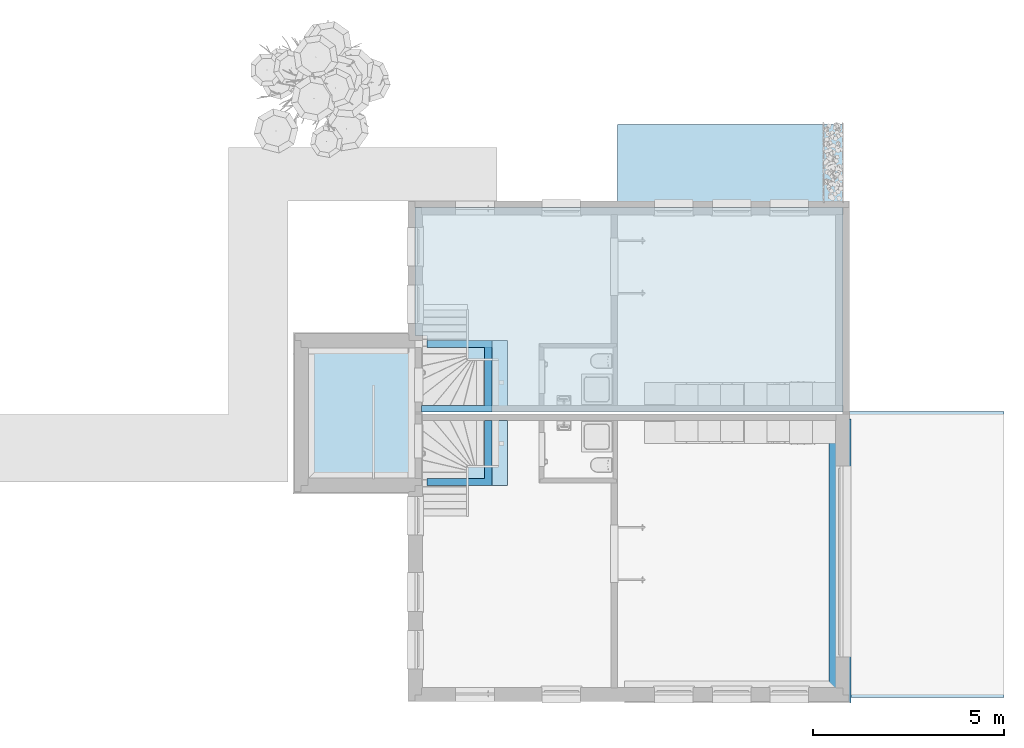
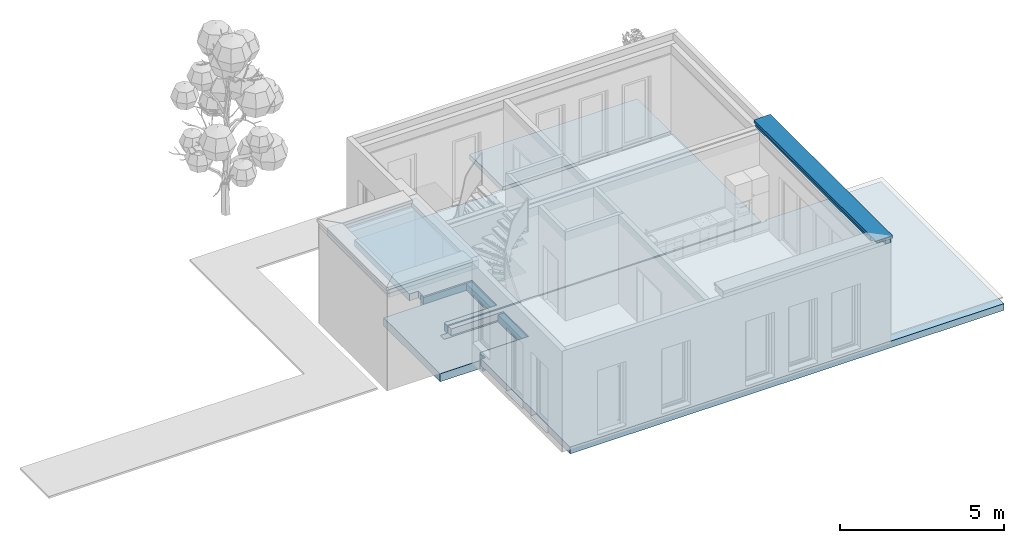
# One storey, part 5 of 28: 7 slabs, 1 beam.
"""IFC4 building model written with IfcOpenShell, lengths in metres."""

from ifc_helpers import new_model, entity, si_unit, converted_unit, derived_unit, direction, frame, origin_with_axes, place, context, subcontext, project, spatial, triangles, material, constituent, constituent_set, type_object, element, save


model = new_model("IFC4")

# Units and contexts
model_context = context("Model", 3, precision=1e-05, world=origin_with_axes(), true_north=direction((-0.526213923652, 0.850352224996)))
body_context = subcontext(model_context, "Body", "Model", "MODEL_VIEW")
ifc_project = project(units=[si_unit("LENGTHUNIT", "METRE"), si_unit("AREAUNIT", "SQUARE_METRE"), si_unit("VOLUMEUNIT", "CUBIC_METRE"), converted_unit("PLANEANGLEUNIT", "DEGREE", entity("IfcPlaneAngleMeasure", 0.0174532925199), si_unit("PLANEANGLEUNIT", "RADIAN"), dimensions=[0, 0, 0, 0, 0, 0, 0]), si_unit("SOLIDANGLEUNIT", "STERADIAN"), converted_unit("TIMEUNIT", "Year", entity("IfcTimeMeasure", 31556926.0), si_unit("TIMEUNIT", "SECOND"), dimensions=[0, 0, 1, 0, 0, 0, 0]), si_unit("MASSUNIT", "GRAM", prefix="KILO"), si_unit("THERMODYNAMICTEMPERATUREUNIT", "DEGREE_CELSIUS"), si_unit("LUMINOUSINTENSITYUNIT", "LUMEN"), si_unit("ENERGYUNIT", "JOULE", prefix="MEGA"), derived_unit("THERMALCONDUCTANCEUNIT", [(si_unit("POWERUNIT", "WATT"), 1), (si_unit("LENGTHUNIT", "METRE"), -1), (si_unit("THERMODYNAMICTEMPERATUREUNIT", "KELVIN"), -1)]), derived_unit("SPECIFICHEATCAPACITYUNIT", [(si_unit("ENERGYUNIT", "JOULE"), 1), (si_unit("MASSUNIT", "GRAM", prefix="KILO"), -1), (si_unit("THERMODYNAMICTEMPERATUREUNIT", "KELVIN"), -1)]), derived_unit("MASSDENSITYUNIT", [(si_unit("MASSUNIT", "GRAM", prefix="KILO"), 1), (si_unit("VOLUMEUNIT", "CUBIC_METRE"), -1)])], contexts=[model_context])

# Site, building, storey, space
site_placement = place(None, origin_with_axes())
site = spatial("IfcSite", under=ifc_project, at=site_placement, Name="Gelände", CompositionType="ELEMENT")
building_placement = place(site_placement, origin_with_axes())
building = spatial("IfcBuilding", under=site, at=building_placement, Name="Haus vom Nikolaus", CompositionType="ELEMENT")
storey_placement = place(building_placement, origin_with_axes())
storey = spatial("IfcBuildingStorey", under=building, at=storey_placement, Name="EG", CompositionType="ELEMENT", Elevation=0.0)
space_1_placement = place(storey_placement, frame((11.4399976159, -0.000167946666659, 0.0), z_axis=(0.0, 0.0, 1.0), x_axis=(1.0, 0.0, 0.0)))
space_1 = spatial("IfcSpace", under=storey, at=space_1_placement, Name="R-024", CompositionType="ELEMENT")

# Beam
ifc_material_1 = material(Name="Verputz, Kalkzement")
ifc_constituent_1 = constituent(ifc_material_1, Name="Component 1")
ifc_material_2 = material(Name="Holz, Bauholz")
ifc_constituent_2 = constituent(ifc_material_2, Name="Component 2")
ifc_material_3 = material(Name="Dämmung, hart XPS")
ifc_constituent_3 = constituent(ifc_material_3, Name="Component 3")
ifc_material_4 = material(Name="Holz, Brettschichtholz")
ifc_constituent_4 = constituent(ifc_material_4, Name="Component 4")
ifc_material_5 = material(Name="MW Kalksandstein")
ifc_constituent_5 = constituent(ifc_material_5, Name="Component 5")
ifc_constituent_6 = constituent(ifc_material_2, Name="Component 6")
ifc_constituent_7 = constituent(ifc_material_3, Name="Component 7")
ifc_material_6 = material(Name="Holz, Spanplatte")
ifc_constituent_8 = constituent(ifc_material_6, Name="Component 8")
ifc_material_7 = material(Name="Metall, Stahl verzinkt")
ifc_constituent_9 = constituent(ifc_material_7, Name="Component 9")
ifc_constituent_set = constituent_set(constituents=[ifc_constituent_1, ifc_constituent_2, ifc_constituent_3, ifc_constituent_4, ifc_constituent_5, ifc_constituent_6, ifc_constituent_7, ifc_constituent_8, ifc_constituent_9], Name="Bauteil - Attika Mauerwerk")
beam_type = type_object("IfcBeamType", Name="Bauteil - Attika Mauerwerk 574 x 270", PredefinedType="NOTDEFINED")
beam_placement = place(space_1_placement, frame((-0.179999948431, 7.28500003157, 3.67), z_axis=(0.0, 0.0, 1.0), x_axis=(0.0, -1.0, 0.0)))
element("IfcBeam", 1, at=beam_placement, inside=space_1, type_object=beam_type, material=ifc_constituent_set, Name="Attika-Wand-005", ObjectType="Bauteil - Attika Mauerwerk 574 x 270", context=body_context, shape_type="Tessellation", body=[
    triangles([(0.0, 0.180000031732, 0.300000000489), (7.40000000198, 0.160124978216, 0.300000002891), (7.40000000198, 0.180000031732, 0.300000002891), (0.0, 0.160124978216, 0.300000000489), (7.39999999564, 0.180000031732, 0.259126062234), (7.39999999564, 0.160039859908, 0.259126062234), (7.3999999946, 0.180000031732, 0.251263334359), (7.39999999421, 0.180000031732, 0.24895224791), (0.0, 0.180000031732, 0.08), (7.40000000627, 0.180000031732, 0.0799999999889), (0.0, 0.160000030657, 0.239999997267), (0.0, 0.160000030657, 0.08), (7.3999999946, 0.160023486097, 0.251263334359), (7.39999999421, 0.160018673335, 0.24895224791), (7.40000000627, 0.160000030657, 0.239999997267), (7.40000000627, 0.160000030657, 0.0799999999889)], [[1, 2, 3], [1, 4, 2], [2, 5, 3], [2, 6, 5], [7, 1, 5], [1, 8, 9], [8, 1, 7], [9, 8, 10], [5, 1, 3], [1, 11, 4], [11, 1, 9], [11, 9, 12], [11, 6, 4], [4, 6, 2], [13, 11, 14], [15, 14, 11], [11, 13, 6], [7, 6, 13], [6, 7, 5], [8, 13, 14], [13, 8, 7], [10, 15, 16], [15, 8, 14], [15, 10, 8], [16, 9, 10], [16, 12, 9], [15, 12, 16], [15, 11, 12]], closed=True),
    triangles([(0.0, 0.109995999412, 0.324039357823), (7.3299959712, 0.109995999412, 0.324039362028), (0.0, 0.110124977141, 0.300000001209), (7.33000718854, 0.110007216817, 0.321948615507), (7.33012494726, 0.110124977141, 0.300000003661), (7.33008283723, 0.110082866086, 0.30784881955), (7.33003921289, 0.110039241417, 0.315979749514), (7.33000718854, 0.0501249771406, 0.321948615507), (7.33003921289, 0.0501249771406, 0.315979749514), (7.33008283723, 0.0501249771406, 0.30784881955), (7.33012494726, 0.0501249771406, 0.300000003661), (0.0, 0.0501249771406, 0.300000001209), (0.0, 0.0501249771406, 0.321948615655)], [[1, 2, 3], [3, 2, 4], [5, 3, 6], [6, 3, 7], [7, 3, 4], [2, 8, 4], [9, 4, 8], [9, 7, 4], [10, 7, 9], [10, 6, 7], [11, 6, 10], [11, 5, 6], [12, 5, 11], [12, 3, 5], [3, 13, 1], [3, 12, 13], [13, 2, 1], [2, 13, 8], [8, 12, 9], [12, 8, 13], [10, 9, 12], [10, 12, 11]], closed=True),
    triangles([(0.0, 0.16, 0.24), (7.37999999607, 0.0, 0.24000000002), (7.37999999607, 0.16, 0.24000000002), (0.0, 0.0, 0.24), (7.37999999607, 0.16, 0.238724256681), (7.37999999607, 0.0, 0.238724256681), (7.37999999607, 0.16, 0.228597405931), (7.37999999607, 0.16, 0.23090849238), (0.0, 0.16, 0.0800000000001), (7.37999999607, 0.16, 0.08), (0.0, 0.0, 0.0799999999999), (7.37999999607, 0.0, 0.228597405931), (7.37999999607, 0.0, 0.23090849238), (7.37999999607, 0.0, 0.08)], [[1, 2, 3], [1, 4, 2], [2, 5, 3], [2, 6, 5], [7, 1, 8], [8, 1, 5], [1, 7, 9], [9, 7, 10], [5, 1, 3], [4, 9, 11], [4, 1, 9], [12, 4, 11], [4, 6, 2], [13, 6, 4], [12, 11, 14], [13, 4, 12], [13, 5, 6], [13, 8, 5], [12, 8, 13], [12, 7, 8], [10, 12, 14], [12, 10, 7], [11, 10, 14], [11, 9, 10]], closed=True),
    triangles([(0.0, 0.160124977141, 0.300000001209), (7.38012494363, 0.110124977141, 0.300000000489), (7.38012494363, 0.160124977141, 0.300000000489), (0.0, 0.110124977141, 0.300000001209), (7.38012494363, 0.0501249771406, 0.300000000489), (7.38003982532, 0.160039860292, 0.259126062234), (7.38003982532, -0.2, 0.259126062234), (7.38012494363, -0.12, 0.300000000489), (7.38012494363, -0.18, 0.300000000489), (7.38012494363, -0.2, 0.300000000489), (0.0, 0.160000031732, 0.24), (7.38002345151, 0.160023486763, 0.251263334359), (7.38001863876, 0.160018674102, 0.24895224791), (7.37999999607, 0.160000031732, 0.239999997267), (0.0, -0.2, 0.24), (0.0, 0.0501249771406, 0.300000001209), (0.0, -0.12, 0.300000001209), (0.0, -0.18, 0.300000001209), (0.0, -0.2, 0.300000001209), (7.38002345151, -0.2, 0.251263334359), (7.38001863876, -0.2, 0.24895224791), (7.37999999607, -0.2, 0.239999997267)], [[1, 2, 3], [1, 4, 2], [5, 6, 2], [2, 6, 3], [7, 5, 8], [7, 8, 9], [7, 9, 10], [5, 7, 6], [11, 6, 12], [1, 6, 11], [11, 12, 13], [11, 13, 14], [6, 1, 3], [11, 15, 16], [11, 4, 1], [11, 16, 4], [17, 16, 15], [18, 15, 19], [17, 15, 18], [4, 5, 2], [4, 16, 5], [16, 8, 5], [16, 17, 8], [17, 9, 8], [17, 18, 9], [18, 10, 9], [18, 19, 10], [15, 7, 19], [19, 7, 10], [20, 7, 15], [21, 15, 22], [20, 15, 21], [12, 7, 20], [7, 12, 6], [13, 20, 21], [20, 13, 12], [14, 21, 22], [21, 14, 13], [15, 14, 22], [15, 11, 14]], closed=True),
    triangles([(0.0, 0.0, 0.24), (7.21999996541, -0.2, 0.24), (7.21999996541, 0.0, 0.24), (0.0, -0.2, 0.24), (7.21999996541, 0.0, 0.238724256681), (7.21999996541, -0.2, 0.238724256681), (7.21999996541, 0.0, 0.228597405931), (7.21999996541, 0.0, 0.23090849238), (0.0, 0.0, 0.0799999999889), (7.21999996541, 0.0, 0.0799999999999), (0.0, -0.2, 0.0800000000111), (7.21999996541, -0.2, 0.228597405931), (7.21999996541, -0.2, 0.23090849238), (7.21999996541, -0.2, 0.0799999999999)], [[1, 2, 3], [1, 4, 2], [2, 5, 3], [2, 6, 5], [7, 1, 8], [8, 1, 5], [1, 7, 9], [9, 7, 10], [5, 1, 3], [1, 11, 4], [11, 1, 9], [12, 4, 11], [4, 6, 2], [13, 4, 12], [14, 12, 11], [4, 13, 6], [13, 5, 6], [13, 8, 5], [12, 8, 13], [12, 7, 8], [10, 12, 14], [12, 10, 7], [11, 10, 14], [11, 9, 10]], closed=True),
    triangles([(0.0, -0.12, 0.315979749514), (7.09999996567, -0.180110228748, 0.313880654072), (7.09999996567, -0.12, 0.315979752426), (0.0, -0.180110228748, 0.313880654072), (7.09999996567, -0.12, 0.30784881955), (7.09999996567, -0.180062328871, 0.30784881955), (0.0, -0.12, 0.300000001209), (7.09999996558, -0.12, 0.300000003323), (0.0, -0.18, 0.300000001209), (7.09999996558, -0.18, 0.300000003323)], [[1, 2, 3], [1, 4, 2], [2, 5, 3], [2, 6, 5], [7, 5, 8], [1, 5, 7], [5, 1, 3], [7, 4, 1], [7, 9, 4], [9, 6, 4], [4, 6, 2], [10, 6, 9], [10, 5, 6], [10, 8, 5], [9, 8, 10], [9, 7, 8]], closed=True),
    triangles([(0.0, -0.2, 0.300000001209), (7.01999996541, -0.31028294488, 0.300000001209), (7.01999996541, -0.2, 0.300000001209), (0.0, -0.31028294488, 0.300000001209), (7.01999996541, -0.2, 0.259126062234), (7.01999996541, -0.31028294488, 0.259126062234), (7.01999996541, -0.2, 0.24895224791), (7.01999996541, -0.2, 0.251263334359), (7.01999996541, -0.2, 0.24), (7.01999996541, -0.2, 0.238724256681), (7.01999996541, -0.2, 0.23090849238), (7.01999996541, -0.2, 0.228597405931), (0.0, -0.2, 0.08), (7.01999996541, -0.2, 0.0800000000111), (0.0, -0.31028294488, 0.08), (7.01999996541, -0.31028294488, 0.228597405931), (7.01999996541, -0.31028294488, 0.251263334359), (7.01999996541, -0.31028294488, 0.0800000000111), (7.01999996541, -0.31028294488, 0.23090849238), (7.01999996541, -0.31028294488, 0.238724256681), (7.01999996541, -0.31028294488, 0.24), (7.01999996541, -0.31028294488, 0.24895224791)], [[1, 2, 3], [1, 4, 2], [2, 5, 3], [2, 6, 5], [7, 1, 8], [8, 1, 5], [9, 1, 7], [10, 1, 9], [11, 1, 10], [12, 1, 11], [1, 12, 13], [13, 12, 14], [5, 1, 3], [1, 15, 4], [1, 13, 15], [16, 4, 15], [4, 6, 2], [17, 6, 4], [16, 15, 18], [19, 4, 16], [20, 4, 19], [21, 4, 20], [22, 4, 21], [17, 4, 22], [17, 5, 6], [17, 8, 5], [22, 8, 17], [22, 7, 8], [21, 7, 22], [21, 9, 7], [20, 9, 21], [20, 10, 9], [11, 20, 19], [20, 11, 10], [16, 11, 19], [16, 12, 11], [14, 16, 18], [16, 14, 12], [15, 14, 18], [15, 13, 14]], closed=True),
    triangles([(7.32999597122, 0.109995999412, 0.324039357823), (7.43635959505, -0.354335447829, 0.327753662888), (7.3299959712, -0.354205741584, 0.324039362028), (7.43635959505, 0.216359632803, 0.327753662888), (7.43635659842, -0.354338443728, 0.327839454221), (0.0, -0.354338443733, 0.327839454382), (6.86635961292, -0.353640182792, 0.307848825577), (0.0, -0.353640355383, 0.30784881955), (7.09919890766, -0.353924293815, 0.315979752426), (7.27012494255, -0.354132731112, 0.321948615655), (7.27012494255, 0.0501249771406, 0.321948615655), (0.0, 0.216359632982, 0.327753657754), (0.0, 0.109995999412, 0.324039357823), (7.43635659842, 0.216356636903, 0.327839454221), (7.43563610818, 0.215636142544, 0.348471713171), (0.0, 0.215636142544, 0.348471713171), (0.0, 0.0501249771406, 0.321948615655), (7.09919890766, -0.120800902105, 0.315979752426)], [[1, 2, 3], [1, 4, 2], [5, 6, 7], [5, 3, 2], [7, 6, 8], [5, 9, 10], [5, 7, 9], [5, 10, 3], [11, 3, 10], [11, 1, 3], [12, 1, 13], [12, 4, 1], [14, 2, 4], [2, 14, 5], [15, 6, 5], [15, 16, 6], [17, 8, 6], [13, 16, 12], [17, 16, 13], [16, 17, 6], [17, 7, 8], [7, 17, 18], [17, 11, 18], [18, 9, 7], [18, 10, 9], [18, 11, 10], [13, 11, 17], [11, 13, 1], [14, 12, 15], [4, 12, 14], [16, 15, 12], [15, 5, 14]], closed=True),
    triangles([(6.86526500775, -0.35473497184, 0.228597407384), (0.0, -0.355692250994, 0.229554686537), (0.0, -0.35473497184, 0.228597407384), (6.86622228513, -0.355692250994, 0.229554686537), (6.86566152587, -0.355692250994, 0.238724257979), (6.86566152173, -0.355692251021, 0.230908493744), (6.86757608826, -0.355692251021, 0.23090849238), (6.86566152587, -0.355692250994, 0.24), (6.86566152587, -0.355692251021, 0.251263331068), (6.86566152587, -0.355692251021, 0.248952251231), (6.86566152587, -0.355692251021, 0.259126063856), (0.0, -0.355692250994, 0.329145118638), (6.86566152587, -0.355692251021, 0.300000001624), (6.86566152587, -0.355692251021, 0.307848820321), (6.86566152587, -0.355692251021, 0.315979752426), (6.86566152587, -0.355692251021, 0.321948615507), (6.86566152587, -0.355692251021, 0.324039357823), (6.86566152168, -0.355692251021, 0.327839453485), (6.90173098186, -0.355692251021, 0.329145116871), (0.0, 0.216506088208, 0.251263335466), (0.0, 0.216902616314, 0.248952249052), (0.0, 0.207733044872, 0.258121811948), (0.0, -0.354338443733, 0.230908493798), (0.0, -0.354338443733, 0.327839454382), (0.0, 0.215636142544, 0.348471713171), (0.0, 0.217859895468, 0.249909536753), (0.0, 0.216512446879, 0.348504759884), (0.0, 0.217859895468, 0.349908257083), (0.0, 0.208643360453, 0.259126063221), (0.0, -0.345518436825, 0.237813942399), (0.0, -0.346522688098, 0.238724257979), (6.86757608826, -0.352423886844, 0.23090849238), (6.87448152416, -0.345518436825, 0.237813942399), (6.86757608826, -0.354338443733, 0.230908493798), (6.86566152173, -0.354338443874, 0.230908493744), (6.86566152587, -0.354338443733, 0.238724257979), (6.86566152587, -0.354338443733, 0.24), (6.86566152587, -0.354338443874, 0.248952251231), (6.86566152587, -0.354338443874, 0.251263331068), (6.86566152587, -0.354338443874, 0.259126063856), (6.86566152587, -0.354338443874, 0.300000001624), (6.86566152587, -0.354338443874, 0.307848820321), (6.86566152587, -0.354338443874, 0.315979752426), (6.86566152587, -0.354338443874, 0.321948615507), (6.86566152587, -0.354338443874, 0.324039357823), (6.86566152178, -0.354338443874, 0.327839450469), (7.43563610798, 0.178177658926, 0.3484717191), (7.43563610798, 0.215636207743, 0.3484717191), (7.43785986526, 0.217859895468, 0.349908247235), (7.43651241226, 0.179090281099, 0.348504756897), (7.43785986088, 0.179090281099, 0.348504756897), (7.43785986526, 0.217859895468, 0.24990953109), (7.43690257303, 0.216902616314, 0.248952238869), (7.4365060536, 0.214591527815, 0.251263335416), (7.43785986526, 0.215945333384, 0.24990953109), (7.42964758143, 0.207733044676, 0.258121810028), (7.43785986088, 0.214591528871, 0.251263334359), (7.42864333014, 0.208643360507, 0.259126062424), (7.4365060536, 0.216506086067, 0.251263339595), (7.43785986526, 0.216506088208, 0.251263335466), (7.43651241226, 0.216512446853, 0.348504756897), (7.43785986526, 0.216512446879, 0.348504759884), (6.87347727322, -0.346522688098, 0.238724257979), (6.87448152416, -0.347432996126, 0.237813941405)], [[1, 2, 3], [2, 1, 4], [5, 2, 6], [6, 4, 7], [8, 2, 5], [9, 2, 10], [10, 2, 8], [11, 2, 9], [2, 11, 12], [12, 11, 13], [12, 13, 14], [12, 14, 15], [12, 15, 16], [12, 16, 17], [12, 17, 18], [19, 12, 18], [6, 2, 4], [20, 21, 22], [23, 12, 24], [25, 24, 12], [26, 27, 28], [27, 26, 20], [20, 22, 29], [21, 20, 26], [25, 12, 28], [25, 28, 27], [2, 23, 3], [12, 23, 2], [30, 23, 31], [23, 30, 3], [32, 1, 30], [30, 1, 3], [32, 30, 33], [1, 34, 4], [4, 34, 7], [32, 34, 1], [35, 7, 34], [35, 6, 7], [5, 35, 36], [35, 5, 6], [36, 8, 5], [36, 37, 8], [38, 8, 37], [38, 10, 8], [38, 9, 10], [38, 39, 9], [40, 9, 39], [40, 11, 9], [40, 13, 11], [40, 41, 13], [41, 14, 13], [41, 42, 14], [43, 14, 42], [43, 15, 14], [43, 16, 15], [43, 44, 16], [44, 17, 16], [44, 45, 17], [46, 17, 45], [17, 46, 18], [47, 46, 48], [46, 19, 18], [46, 47, 19], [49, 47, 50], [49, 19, 47], [28, 19, 49], [49, 50, 51], [19, 28, 12], [26, 49, 52], [26, 28, 49], [26, 53, 21], [53, 26, 52], [54, 53, 55], [53, 56, 21], [54, 55, 57], [21, 56, 22], [56, 53, 54], [22, 58, 29], [58, 22, 56], [20, 58, 59], [58, 20, 29], [60, 61, 59], [61, 60, 62], [27, 59, 61], [20, 59, 27], [27, 48, 25], [48, 27, 61], [25, 46, 24], [46, 25, 48], [42, 24, 43], [23, 36, 35], [23, 37, 36], [45, 24, 46], [44, 24, 45], [41, 24, 42], [44, 43, 24], [40, 24, 41], [38, 37, 23], [39, 23, 40], [24, 40, 23], [38, 23, 39], [63, 31, 35], [34, 63, 35], [63, 34, 64], [23, 35, 31], [63, 30, 31], [30, 63, 33], [64, 32, 33], [32, 64, 34], [50, 48, 61], [48, 50, 47], [61, 51, 50], [61, 62, 51], [62, 52, 49], [60, 55, 52], [51, 62, 49], [55, 60, 57], [62, 60, 52], [52, 55, 53], [59, 57, 60], [57, 59, 54], [59, 58, 54], [56, 54, 58], [63, 64, 33]], closed=True),
])

# Space
space_2_placement = place(storey_placement, frame((-3.09538684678, 5.36483190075, 0.0), z_axis=(0.0, 0.0, 1.0), x_axis=(1.0, 0.0, 0.0)))
space_2 = spatial("IfcSpace", under=storey, at=space_2_placement, Name="EG", CompositionType="ELEMENT")

# Slabs
ifc_material_8 = material(Name="Beton, Stahlbeton C20/25")
slab_type_1 = type_object("IfcSlabType", Name="Beton, Stahlbeton C20/25 300", PredefinedType="FLOOR")
slab_1_placement = place(space_2_placement, frame((0.18, 0.180000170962, 3.3), z_axis=(0.0, 0.0, 1.0), x_axis=(1.0, 0.0, 0.0)))
element("IfcSlab", 2, at=slab_1_placement, inside=space_2, type_object=slab_type_1, material=ifc_material_8, Name="Decke-010", PredefinedType="FLOOR", context=body_context, shape_type="Tessellation", body=[
    triangles([(0.0, 0.0, 0.0), (3.15538446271, 0.0, 0.3), (0.0, 0.0, 0.3), (3.15538446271, 0.0, 0.0), (3.15538446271, 3.79, 0.3), (0.0, 3.79, 0.3), (0.0, 3.79, 0.0), (3.15538446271, 3.79, 0.0)], [[1, 2, 3], [1, 4, 2], [3, 5, 6], [3, 2, 5], [7, 3, 6], [7, 1, 3], [1, 8, 4], [1, 7, 8], [4, 5, 2], [4, 8, 5], [8, 6, 5], [8, 7, 6]], closed=True),
])
slab_2_placement = place(storey_placement, frame((2.48999761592, 9.33483207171, -0.3), z_axis=(0.0, 0.0, 1.0), x_axis=(1.0, 0.0, 0.0)))
element("IfcSlab", 3, at=slab_2_placement, inside=storey, type_object=slab_type_1, material=ifc_material_8, Name="Decke-006", PredefinedType="FLOOR", context=body_context, shape_type="Tessellation", body=[
    triangles([(-2.49000002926, -1.85500001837, 0.0), (-3.51038446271, -3.61500001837, 0.0), (-2.49000002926, -2.09500001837, 0.0), (-2.11000002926, -3.61500001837, 0.0), (-2.11000002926, -0.175000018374, 0.0), (-2.25, -1.85500001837, 0.0), (-3.51038446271, -0.175000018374, 0.0), (-2.25, -2.09500001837, 0.0), (0.0, 0.0, 0.0), (-2.11000002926, -1.83738855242e-08, 0.0), (0.0, -1.855, 0.0), (-0.00144026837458, -2.095, 0.0), (-0.00144026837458, -3.79, 0.0), (-2.11000002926, -3.79000001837, 0.0), (-2.25000002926, -2.09500001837, -0.3), (-2.49000002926, -2.09500001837, -0.3), (-2.49000002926, -1.85500001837, -0.3), (-2.25000002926, -1.85500001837, -0.3), (0.0, -1.855, -0.3), (0.0, 0.0, -0.3), (-2.11000002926, -1.83738855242e-08, -0.3), (-2.11000002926, -0.175000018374, -0.3), (-3.51038446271, -0.175000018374, -0.3), (-3.51038446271, -3.61500001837, -0.3), (-2.11000002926, -3.61500001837, -0.3), (-2.11000002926, -3.79000001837, -0.3), (-0.00144026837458, -3.79, -0.3), (-0.00144026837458, -2.095, -0.3)], [[1, 2, 3], [4, 3, 2], [5, 1, 6], [2, 1, 7], [3, 4, 8], [5, 9, 10], [5, 7, 1], [5, 6, 11], [9, 5, 11], [12, 8, 4], [13, 4, 14], [12, 4, 13], [15, 3, 8], [3, 15, 16], [16, 1, 3], [1, 16, 17], [1, 18, 6], [18, 1, 17], [19, 6, 18], [6, 19, 11], [19, 9, 11], [19, 20, 9], [10, 20, 21], [10, 9, 20], [10, 22, 5], [10, 21, 22], [22, 7, 5], [7, 22, 23], [2, 23, 24], [2, 7, 23], [2, 25, 4], [2, 24, 25], [4, 26, 14], [4, 25, 26], [26, 13, 14], [26, 27, 13], [27, 12, 13], [27, 28, 12], [8, 28, 15], [8, 12, 28], [22, 17, 23], [24, 23, 17], [25, 16, 15], [24, 17, 16], [19, 18, 22], [25, 27, 26], [25, 24, 16], [25, 15, 28], [27, 25, 28], [20, 22, 21], [19, 22, 20], [22, 18, 17]], closed=True),
])
slab_type_2 = type_object("IfcSlabType", Name="Beton, Stahlbeton C20/25 250", PredefinedType="LANDING")
slab_3_placement = place(storey_placement, frame((0.064997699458, 5.54483207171, -0.05), z_axis=(0.0, 0.0, 1.0), x_axis=(1.0, 0.0, 0.0)))
element("IfcSlab", 4, at=slab_3_placement, inside=storey, type_object=slab_type_2, material=ifc_material_8, Name="Decke-007", PredefinedType="LANDING", context=body_context, shape_type="Tessellation", body=[
    triangles([(0.314999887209, 0.174999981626, 0.0), (1.8235634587, 0.175000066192, -0.25), (0.314999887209, 0.174999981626, -0.25), (1.8235634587, 0.175000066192, 0.0), (2.0193822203, 1.69499978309, -0.25), (2.0193822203, 0.0, -0.25), (0.314999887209, -1.8373884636e-08, -0.25), (1.8235634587, 1.69499978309, -0.25), (0.314999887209, -1.8373884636e-08, 0.0), (2.0193822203, 0.0, 0.0), (2.0193822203, 1.69499978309, 0.0), (1.8235634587, 1.69499978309, 0.0)], [[1, 2, 3], [1, 4, 2], [2, 5, 6], [2, 7, 3], [5, 2, 8], [7, 2, 6], [1, 7, 9], [1, 3, 7], [10, 11, 4], [9, 10, 4], [9, 4, 1], [12, 4, 11], [8, 4, 12], [8, 2, 4], [7, 10, 9], [7, 6, 10], [5, 12, 11], [5, 8, 12], [6, 11, 10], [6, 5, 11]], closed=True),
])
slab_4_placement = place(storey_placement, frame((0.0646131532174, 9.15983207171, -0.05), z_axis=(0.0, 0.0, 1.0), x_axis=(1.0, 0.0, 0.0)))
element("IfcSlab", 5, at=slab_4_placement, inside=storey, type_object=slab_type_2, material=ifc_material_8, Name="Decke-007", PredefinedType="LANDING", context=body_context, shape_type="Tessellation", body=[
    triangles([(2.01976676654, 0.175, 0.0), (2.01976676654, -1.68000001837, -0.2), (2.01976676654, 0.175, -0.25), (2.01976676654, -1.695, 0.0), (2.01976676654, -1.695, -0.2), (2.01976676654, -1.68000001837, -0.25), (0.175384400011, -1.68000001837, -0.2), (0.175384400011, -1.695, -0.2), (0.175384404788, -1.68000001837, -0.25), (1.82394799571, 0.0, -0.25), (0.315384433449, 0.174999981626, -0.25), (1.82394799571, -1.52000007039, -0.25), (0.175384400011, -1.52000007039, -0.25), (0.315384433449, -1.83738784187e-08, -0.25), (0.315384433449, 0.174999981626, 0.0), (1.82394799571, 0.0, 0.0), (0.315384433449, -1.83738784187e-08, 0.0), (1.82394799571, -1.52000007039, 0.0), (0.175384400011, -1.695, 0.0), (0.175384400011, -1.52000007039, 0.0)], [[1, 2, 3], [4, 5, 2], [3, 2, 6], [1, 4, 2], [5, 7, 2], [5, 8, 7], [2, 9, 6], [2, 7, 9], [10, 11, 3], [12, 9, 13], [6, 10, 3], [9, 12, 6], [10, 6, 12], [11, 10, 14], [15, 3, 11], [15, 1, 3], [16, 4, 1], [16, 15, 17], [4, 16, 18], [15, 16, 1], [19, 4, 18], [19, 18, 20], [5, 19, 8], [5, 4, 19], [8, 19, 7], [13, 7, 20], [20, 7, 19], [7, 13, 9], [12, 20, 18], [12, 13, 20], [10, 18, 16], [10, 12, 18], [14, 16, 17], [14, 10, 16], [15, 14, 17], [15, 11, 14]], closed=True),
])
slab_type_3 = type_object("IfcSlabType", Name="Beton, Stahlbeton C20/25 250", PredefinedType="FLOOR")
slab_5_placement = place(storey_placement, frame((2.08438009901, 5.71983215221, 0.0), z_axis=(0.0, 0.0, 1.0), x_axis=(1.0, 0.0, 0.0)))
element("IfcSlab", 6, at=slab_5_placement, inside=storey, type_object=slab_type_3, material=ifc_material_8, Name="Decke-012", PredefinedType="FLOOR", context=body_context, shape_type="Tessellation", body=[
    triangles([(0.0, 1.5199997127, 0.0), (-1.79246737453e-07, 0.0, -0.05), (0.0, 0.0, 0.0), (0.0, 1.5199997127, -0.25), (-1.79246737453e-07, 0.0, -0.25), (-1.79246737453e-07, -0.175000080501, -0.25), (-1.79246737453e-07, -0.175000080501, -0.05), (-0.195818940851, -1.43090099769e-08, -0.05), (-1.70438251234, -9.88752884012e-08, 0.0), (-1.70438251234, -9.88752884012e-08, -0.05), (-1.84438251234, -0.315000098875, 0.0), (-1.84438251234, -5.72000009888, 0.0), (-1.70438251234, -0.315000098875, 0.0), (9.33561751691, 1.69500005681, 0.0), (13.3952330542, 1.75999990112, 0.0), (9.33561751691, 1.75999990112, 0.0), (-1.84438254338, 1.69500005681, 0.0), (-1.84438254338, 1.5199997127, 0.0), (13.3952330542, -5.72000009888, 0.0), (-1.84438254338, 1.5199997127, -0.25), (13.3952330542, -5.72000009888, -0.25), (9.33561751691, 1.69500005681, -0.25), (-1.70438251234, -0.175000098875, -0.25), (-1.70438251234, -0.315000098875, -0.25), (-1.84438254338, 1.69500005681, -0.25), (13.3952330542, 1.75999990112, -0.25), (9.33561751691, 1.75999990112, -0.25), (-1.84438251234, -5.72000009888, -0.25), (-1.84438251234, -0.315000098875, -0.25), (-1.70438251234, -0.175000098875, -0.05)], [[1, 2, 3], [4, 2, 1], [2, 4, 5], [6, 2, 5], [6, 7, 2], [2, 8, 3], [9, 8, 10], [9, 3, 8], [11, 12, 13], [14, 15, 16], [3, 13, 12], [1, 17, 18], [14, 12, 19], [15, 14, 19], [14, 17, 1], [3, 9, 13], [3, 12, 14], [1, 3, 14], [18, 4, 1], [18, 20, 4], [21, 6, 22], [22, 5, 4], [22, 6, 5], [23, 6, 24], [25, 4, 20], [25, 22, 4], [21, 22, 26], [26, 22, 27], [28, 6, 21], [24, 6, 28], [29, 24, 28], [30, 6, 23], [30, 7, 6], [7, 30, 8], [7, 8, 2], [10, 8, 30], [13, 9, 30], [24, 13, 30], [24, 30, 23], [10, 30, 9], [29, 13, 24], [29, 11, 13], [12, 29, 28], [12, 11, 29], [12, 21, 19], [12, 28, 21], [19, 26, 15], [19, 21, 26], [15, 27, 16], [15, 26, 27], [16, 22, 14], [16, 27, 22], [14, 25, 17], [14, 22, 25], [17, 20, 18], [17, 25, 20]], closed=True),
])
slab_type_4 = type_object("IfcSlabType", Name="Beton, Stahlbeton C20/25 250", PredefinedType="BASESLAB")
slab_6_placement = place(storey_placement, frame((11.2599976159, 12.8148320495, 0.0), z_axis=(0.0, 0.0, 1.0), x_axis=(1.0, 0.0, 0.0)))
element("IfcSlab", 7, at=slab_6_placement, inside=storey, type_object=slab_type_4, material=ifc_material_8, Name="Decke-012", PredefinedType="BASESLAB", context=body_context, shape_type="Tessellation", body=[
    triangles([(-9.17561757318, -5.17499997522, 0.0), (-9.17561769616, -3.65500005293, -0.05), (-9.17561769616, -5.17499997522, -0.05), (-9.17561769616, -5.17499997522, -0.25), (-9.17561769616, -3.65500005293, -0.25), (-9.17561757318, -3.65500005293, 0.0), (-9.17561769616, -3.47999997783, -0.25), (-9.17561769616, -3.47999997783, -0.05), (-9.17561769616, -5.33499999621, -0.25), (0.0, -5.34999994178, -0.25), (-9.17561769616, -5.34999997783, -0.25), (-11.1950000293, 0.0, -0.25), (0.0, 0.0, -0.25), (-10.8800000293, -3.33999999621, -0.25), (-10.8800000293, -3.47999999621, -0.25), (-11.1949999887, -3.33999999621, -0.25), (-9.17561769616, -5.34999997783, -0.05), (-9.371436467, -5.17500004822, -0.05), (-11.0200000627, -5.17499997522, 0.0), (-11.0200000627, -5.17500004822, -0.05), (-10.8800000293, -3.33999999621, 0.0), (-11.1950000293, 0.0, 0.0), (-11.1949999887, -3.33999999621, 0.0), (-10.8800000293, -3.65499999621, 0.0), (0.0, -5.34999994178, 0.0), (0.0, 0.0, 0.0), (-11.0200000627, -5.34999994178, 0.0), (-9.371436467, -3.65499997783, -0.05), (-10.8800000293, -3.65499999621, -0.05), (-10.8800000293, -3.47999999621, -0.05), (-11.0200000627, -5.34999997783, -0.05)], [[1, 2, 3], [4, 2, 5], [4, 3, 2], [1, 6, 2], [2, 7, 5], [2, 8, 7], [9, 10, 11], [12, 13, 7], [12, 7, 14], [14, 7, 15], [12, 14, 16], [10, 7, 13], [4, 10, 9], [5, 10, 4], [10, 5, 7], [17, 9, 11], [9, 3, 4], [9, 17, 3], [3, 18, 1], [19, 18, 20], [19, 1, 18], [21, 22, 23], [6, 21, 24], [6, 22, 21], [25, 6, 1], [22, 6, 26], [27, 25, 1], [27, 1, 19], [6, 25, 26], [6, 24, 28], [6, 28, 2], [29, 28, 24], [8, 2, 28], [30, 28, 29], [30, 8, 28], [8, 15, 7], [8, 30, 15], [21, 14, 30], [24, 21, 30], [24, 30, 29], [15, 30, 14], [21, 16, 14], [21, 23, 16], [16, 22, 12], [16, 23, 22], [26, 12, 22], [26, 13, 12], [25, 13, 26], [25, 10, 13], [31, 17, 27], [10, 25, 17], [10, 17, 11], [27, 17, 25], [17, 31, 18], [17, 18, 3], [20, 18, 31], [27, 20, 31], [27, 19, 20]], closed=True),
])

# Space
space_3_placement = place(storey_placement, frame((5.36499761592, 12.9948320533, -0.2), z_axis=(0.0, 0.0, 1.0), x_axis=(1.0, 0.0, 0.0)))
space_3 = spatial("IfcSpace", under=storey, at=space_3_placement, Name="R-023", CompositionType="ELEMENT")

# Slab
slab_type_5 = type_object("IfcSlabType", Name="Beton, Stahlbeton C20/25 200", PredefinedType="BASESLAB")
slab_7_placement = place(space_3_placement, frame((0.0, -0.02, 0.2), z_axis=(0.0, 0.0, 1.0), x_axis=(1.0, 0.0, 0.0)))
element("IfcSlab", 8, at=slab_7_placement, inside=space_3, type_object=slab_type_5, material=ifc_material_8, Name="Decke-013", PredefinedType="BASESLAB", context=body_context, shape_type="Tessellation", body=[
    triangles([(5.895, 0.0, -0.2), (0.0, 0.0, 0.0), (0.0, 0.0, -0.2), (5.895, 0.0, 0.0), (0.0, 2.015, 0.0), (0.0, 2.015, -0.2), (5.895, 2.015, -0.2), (5.895, 2.015, 0.0)], [[1, 2, 3], [1, 4, 2], [3, 5, 6], [3, 2, 5], [6, 1, 3], [6, 7, 1], [7, 4, 1], [7, 8, 4], [4, 5, 2], [4, 8, 5], [6, 8, 7], [6, 5, 8]], closed=True),
])

save(model, "model.ifc")
